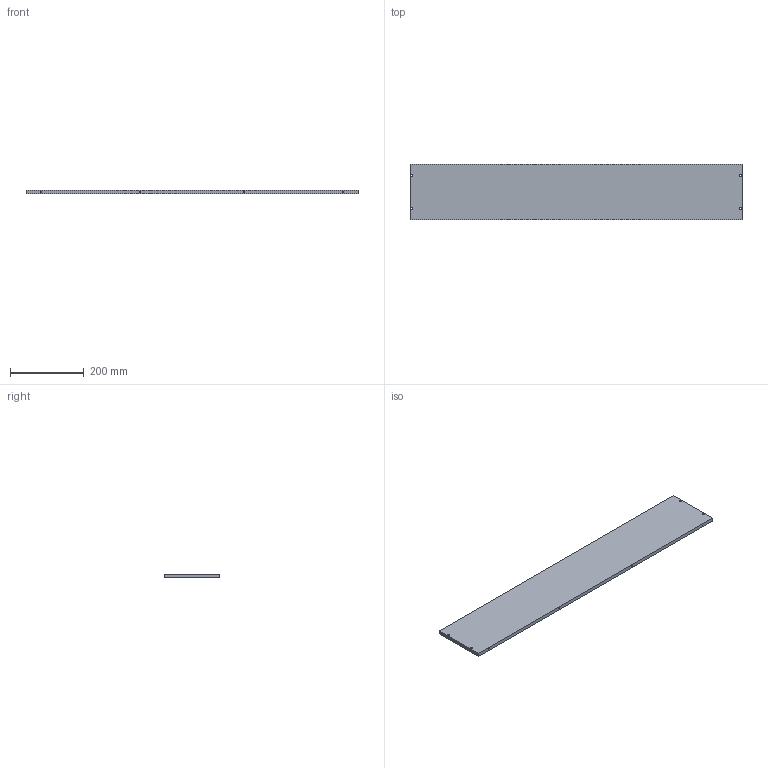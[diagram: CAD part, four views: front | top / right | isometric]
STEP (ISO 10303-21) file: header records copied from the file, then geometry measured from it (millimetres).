
FILE_DESCRIPTION(/* description */ ('Unknown'),/* implementation_level */ '2;1');
FILE_NAME(/* name */ '3_Front and back plates',/* time_stamp */ '2020-07-12T18:31:36+02:00',/* author */ ('Unknown'),/* organization */ ('Unknown'),/* preprocessor_version */ 'ST-DEVELOPER v16.7',/* originating_system */ 'Solid Edge',/* authorisation */ 'Unknown');
FILE_SCHEMA (('AUTOMOTIVE_DESIGN {1 0 10303 214 3 1 1}'));
Length unit declared in the file: millimetre
Products named in the file (1): 3_Front and back plates
Bounding box: 900 x 150 x 10 mm (x, y, z)
Volume: 1348649 mm3; surface area: 291860.1 mm2
Topology: 1 solids, 1 shells, 20 faces, 55 edges, 38 vertices
Faces by surface type: cylinder 9, plane 7, cone 4
Full cylindrical faces by diameter (mm): 2.5 x4, 3 x1, 6 x4
Entity records: 672 total; most frequent: DIRECTION 90, CARTESIAN_POINT 81, ORIENTED_EDGE 60, FACE_BOUND 46, EDGE_LOOP 42, AXIS2_PLACEMENT_3D 39, EDGE_CURVE 30, VERTEX_POINT 30
